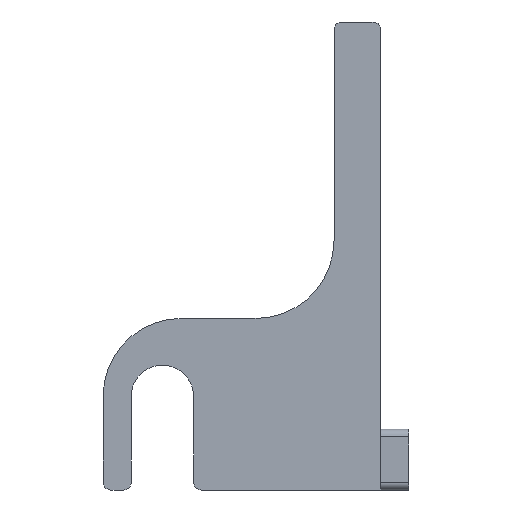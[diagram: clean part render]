
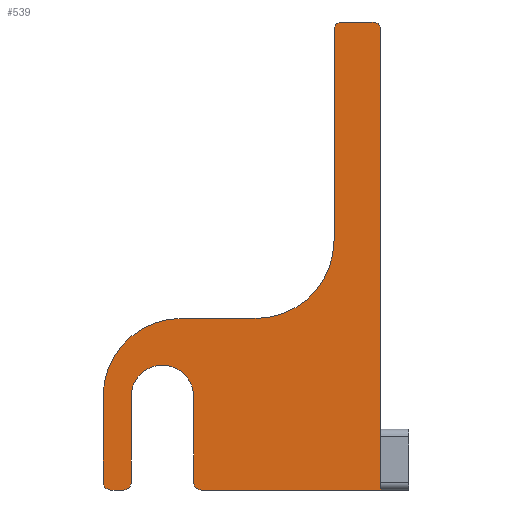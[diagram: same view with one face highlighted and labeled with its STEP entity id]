
A CAD part, front view. The second image highlights one B-rep face of the part: STEP entity #539.
In plain terms, the highlighted planar face has unit normal (0, -1, 0).
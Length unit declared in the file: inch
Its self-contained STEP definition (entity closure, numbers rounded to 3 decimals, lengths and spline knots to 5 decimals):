
#2=CARTESIAN_POINT('',(-0.14502,0.,-0.725));
#3=DIRECTION('',(0.,-1.,0.));
#4=DIRECTION('',(-1.,0.,0.));
#5=AXIS2_PLACEMENT_3D('',#2,#3,#4);
#7=DIRECTION('',(0.,0.,1.));
#8=VECTOR('',#7,0.275);
#9=CARTESIAN_POINT('',(-0.17002,0.,-0.725));
#10=LINE('',#9,#8);
#11=CARTESIAN_POINT('',(0.07998,0.,-0.45));
#12=DIRECTION('',(0.,-1.,0.));
#13=DIRECTION('',(0.,0.,1.));
#14=AXIS2_PLACEMENT_3D('',#11,#12,#13);
#16=DIRECTION('',(1.,0.,0.));
#17=VECTOR('',#16,0.24);
#18=CARTESIAN_POINT('',(0.07998,0.,-0.2));
#19=LINE('',#18,#17);
#20=CARTESIAN_POINT('',(0.31998,0.,0.05));
#21=DIRECTION('',(0.,1.,0.));
#22=DIRECTION('',(1.,0.,0.));
#23=AXIS2_PLACEMENT_3D('',#20,#21,#22);
#25=DIRECTION('',(0.,0.,-1.));
#26=VECTOR('',#25,0.675);
#27=CARTESIAN_POINT('',(0.56998,0.,0.725));
#28=LINE('',#27,#26);
#29=CARTESIAN_POINT('',(0.59498,0.,0.725));
#30=DIRECTION('',(0.,-1.,0.));
#31=DIRECTION('',(0.,0.,1.));
#32=AXIS2_PLACEMENT_3D('',#29,#30,#31);
#34=DIRECTION('',(1.,0.,0.));
#35=VECTOR('',#34,0.1);
#36=CARTESIAN_POINT('',(0.59498,0.,0.75));
#37=LINE('',#36,#35);
#38=CARTESIAN_POINT('',(0.69498,0.,0.725));
#39=DIRECTION('',(0.,-1.,0.));
#40=DIRECTION('',(1.,0.,0.));
#41=AXIS2_PLACEMENT_3D('',#38,#39,#40);
#43=DIRECTION('',(0.,0.,-1.));
#44=VECTOR('',#43,1.475);
#45=CARTESIAN_POINT('',(0.71998,0.,0.725));
#46=LINE('',#45,#44);
#47=DIRECTION('',(-1.,0.,0.));
#48=VECTOR('',#47,0.575);
#49=CARTESIAN_POINT('',(0.71998,0.,-0.75));
#50=LINE('',#49,#48);
#51=CARTESIAN_POINT('',(0.14498,0.,-0.725));
#52=DIRECTION('',(0.,1.,0.));
#53=DIRECTION('',(0.,0.,-1.));
#54=AXIS2_PLACEMENT_3D('',#51,#52,#53);
#56=DIRECTION('',(0.,0.,1.));
#57=VECTOR('',#56,0.27119);
#58=CARTESIAN_POINT('',(0.11998,0.,-0.725));
#59=LINE('',#58,#57);
#60=CARTESIAN_POINT('',(0.02002,0.,-0.45004));
#61=DIRECTION('',(0.,-1.,0.));
#62=DIRECTION('',(0.999,0.,-0.038));
#63=AXIS2_PLACEMENT_3D('',#60,#61,#62);
#65=DIRECTION('',(0.,0.,-1.));
#66=VECTOR('',#65,0.27496);
#67=CARTESIAN_POINT('',(-0.08002,0.,-0.45004));
#68=LINE('',#67,#66);
#69=CARTESIAN_POINT('',(-0.10502,0.,-0.725));
#70=DIRECTION('',(0.,1.,0.));
#71=DIRECTION('',(1.,0.,0.));
#72=AXIS2_PLACEMENT_3D('',#69,#70,#71);
#74=DIRECTION('',(-1.,0.,0.));
#75=VECTOR('',#74,0.04);
#76=CARTESIAN_POINT('',(-0.10502,0.,-0.75));
#77=LINE('',#76,#75);
#382=CARTESIAN_POINT('',(0.71998,0.,-0.75));
#383=CARTESIAN_POINT('',(0.14498,0.,-0.75));
#384=VERTEX_POINT('',#382);
#385=VERTEX_POINT('',#383);
#426=CARTESIAN_POINT('',(0.11998,0.,-0.725));
#427=VERTEX_POINT('',#426);
#434=CARTESIAN_POINT('',(0.56998,0.,0.05));
#435=CARTESIAN_POINT('',(0.31998,0.,-0.2));
#436=VERTEX_POINT('',#434);
#437=VERTEX_POINT('',#435);
#450=CARTESIAN_POINT('',(0.11998,0.,-0.45381));
#451=VERTEX_POINT('',#450);
#452=CARTESIAN_POINT('',(-0.08002,0.,-0.45004));
#453=VERTEX_POINT('',#452);
#454=CARTESIAN_POINT('',(-0.08002,0.,-0.725));
#455=VERTEX_POINT('',#454);
#456=CARTESIAN_POINT('',(-0.10502,0.,-0.75));
#457=VERTEX_POINT('',#456);
#470=CARTESIAN_POINT('',(0.07998,0.,-0.2));
#471=VERTEX_POINT('',#470);
#472=CARTESIAN_POINT('',(-0.17002,0.,-0.45));
#473=VERTEX_POINT('',#472);
#474=CARTESIAN_POINT('',(-0.17002,0.,-0.725));
#475=CARTESIAN_POINT('',(-0.14502,0.,-0.75));
#476=VERTEX_POINT('',#474);
#477=VERTEX_POINT('',#475);
#482=CARTESIAN_POINT('',(0.59498,0.,0.75));
#483=CARTESIAN_POINT('',(0.56998,0.,0.725));
#484=VERTEX_POINT('',#482);
#485=VERTEX_POINT('',#483);
#490=CARTESIAN_POINT('',(0.71998,0.,0.725));
#491=CARTESIAN_POINT('',(0.69498,0.,0.75));
#492=VERTEX_POINT('',#490);
#493=VERTEX_POINT('',#491);
#498=CARTESIAN_POINT('',(0.,0.,0.));
#499=DIRECTION('',(0.,1.,0.));
#500=DIRECTION('',(1.,0.,0.));
#501=AXIS2_PLACEMENT_3D('',#498,#499,#500);
#502=PLANE('',#501);
#504=ORIENTED_EDGE('',*,*,#503,.F.);
#506=ORIENTED_EDGE('',*,*,#505,.T.);
#508=ORIENTED_EDGE('',*,*,#507,.F.);
#510=ORIENTED_EDGE('',*,*,#509,.T.);
#512=ORIENTED_EDGE('',*,*,#511,.F.);
#514=ORIENTED_EDGE('',*,*,#513,.F.);
#516=ORIENTED_EDGE('',*,*,#515,.F.);
#518=ORIENTED_EDGE('',*,*,#517,.T.);
#520=ORIENTED_EDGE('',*,*,#519,.F.);
#522=ORIENTED_EDGE('',*,*,#521,.T.);
#524=ORIENTED_EDGE('',*,*,#523,.T.);
#526=ORIENTED_EDGE('',*,*,#525,.T.);
#528=ORIENTED_EDGE('',*,*,#527,.T.);
#530=ORIENTED_EDGE('',*,*,#529,.T.);
#532=ORIENTED_EDGE('',*,*,#531,.T.);
#534=ORIENTED_EDGE('',*,*,#533,.T.);
#536=ORIENTED_EDGE('',*,*,#535,.T.);
#537=EDGE_LOOP('',(#504,#506,#508,#510,#512,#514,#516,#518,#520,#522,#524,#526,
#528,#530,#532,#534,#536));
#538=FACE_OUTER_BOUND('',#537,.F.);
#539=ADVANCED_FACE('',(#538),#502,.F.);
#6=CIRCLE('',#5,0.025);
#15=CIRCLE('',#14,0.25);
#24=CIRCLE('',#23,0.25);
#33=CIRCLE('',#32,0.025);
#42=CIRCLE('',#41,0.025);
#55=CIRCLE('',#54,0.025);
#64=CIRCLE('',#63,0.10004);
#73=CIRCLE('',#72,0.025);
#503=EDGE_CURVE('',#476,#477,#6,.T.);
#505=EDGE_CURVE('',#476,#473,#10,.T.);
#507=EDGE_CURVE('',#471,#473,#15,.T.);
#509=EDGE_CURVE('',#471,#437,#19,.T.);
#511=EDGE_CURVE('',#436,#437,#24,.T.);
#513=EDGE_CURVE('',#485,#436,#28,.T.);
#515=EDGE_CURVE('',#484,#485,#33,.T.);
#517=EDGE_CURVE('',#484,#493,#37,.T.);
#519=EDGE_CURVE('',#492,#493,#42,.T.);
#521=EDGE_CURVE('',#492,#384,#46,.T.);
#523=EDGE_CURVE('',#384,#385,#50,.T.);
#525=EDGE_CURVE('',#385,#427,#55,.T.);
#527=EDGE_CURVE('',#427,#451,#59,.T.);
#529=EDGE_CURVE('',#451,#453,#64,.T.);
#531=EDGE_CURVE('',#453,#455,#68,.T.);
#533=EDGE_CURVE('',#455,#457,#73,.T.);
#535=EDGE_CURVE('',#457,#477,#77,.T.);
